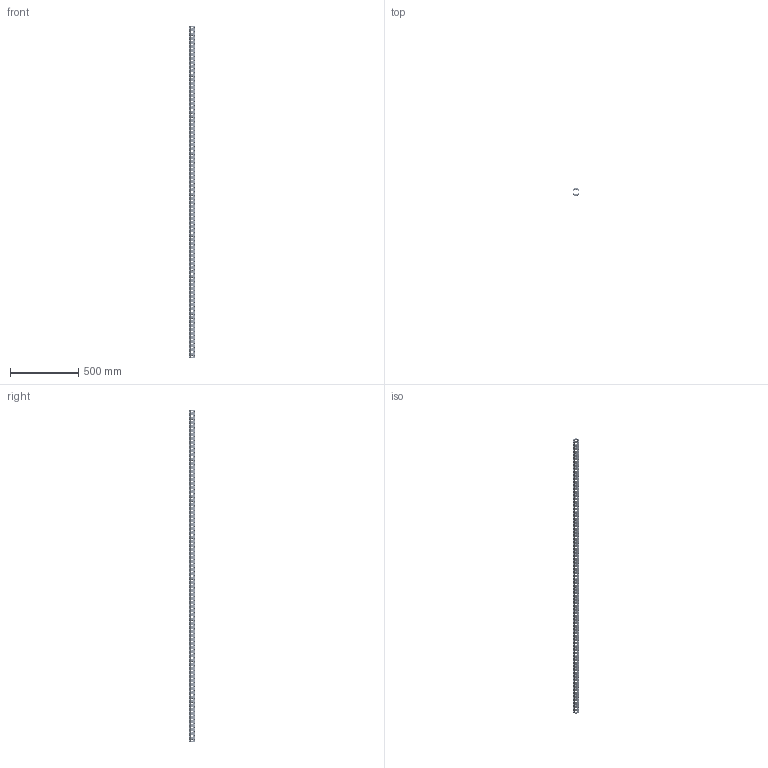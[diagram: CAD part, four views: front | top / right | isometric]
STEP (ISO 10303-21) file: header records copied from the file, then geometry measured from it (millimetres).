
FILE_DESCRIPTION(('CATIA V5 STEP Exchange'),'2;1');
FILE_NAME('U:\Room\唐宝山\EGT002\46-01-010310-01-EGT002-2428.stp','2021-08-24T02:07:16+00:00',('none'),('none'),'CATIA Version 5 Release 21 GA (IN-10)','CATIA V5 STEP AP203','none');
FILE_SCHEMA(('CONFIG_CONTROL_DESIGN'));
Products named in the file (1): 46-01-010310-01-EGT002-2428
Bounding box: 50 x 50 x 2428 mm (x, y, z)
Volume: 1729987 mm3; surface area: 833664 mm2
Topology: 1 solids, 1 shells, 3324 faces, 9156 edges, 5672 vertices
Faces by surface type: cone 1944, cylinder 1354, plane 26
Entity records: 142300 total; most frequent: CARTESIAN_POINT 62499, ORIENTED_EDGE 18312, DIRECTION 12606, EDGE_CURVE 9156, AXIS2_PLACEMENT_3D 5751, VERTEX_POINT 5672, EDGE_LOOP 4460, VECTOR 3532
